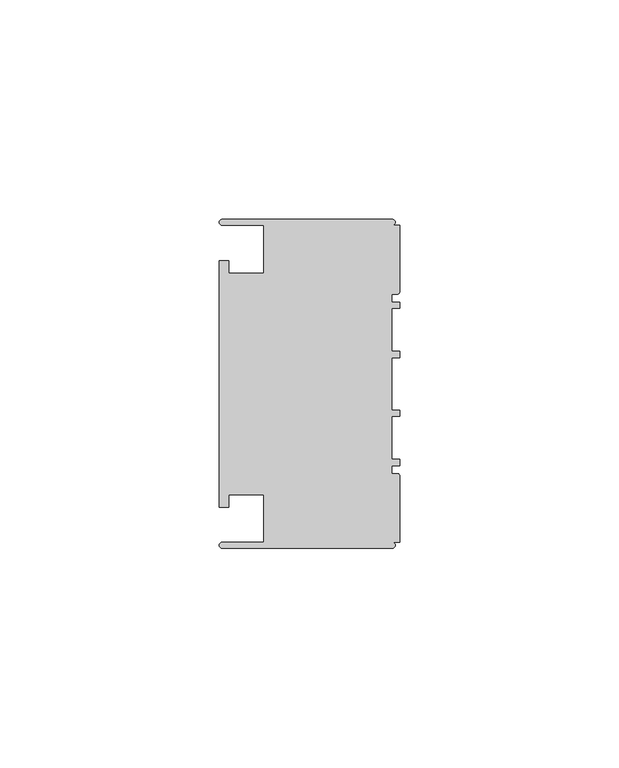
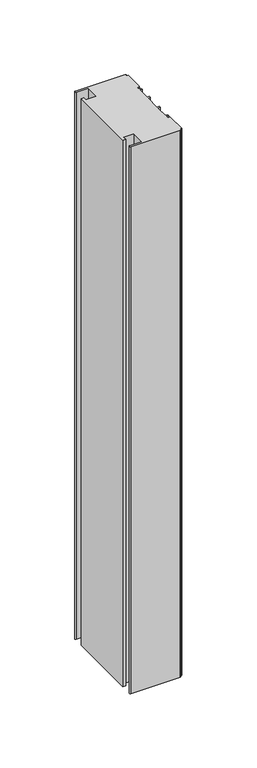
"""IFC4 building model written with IfcOpenShell, lengths in millimetres: member geometry, Прямоугольный импост : 3-AMG-2-Профиль 40Х75 Верх П."""

from ifc_helpers import new_model, si_unit, point, frame, frame_2d, origin, place, context, project, spatial, polyline, circle_curve, trimmed, segment, composite_curve, outline, extrude, source, transform, mapped, element, save


def member_06547a7c(model_context):
    return source(origin(), model_context, "Body", "SweptSolid", [
        extrude(outline(composite_curve([segment(polyline([(-1.7, -37.5), (-40.4, -37.5)]), True, "CONTINUOUS"), segment(trimmed(circle_curve(frame_2d((-40.4, -36.8)), 0.7), [point((-40.4, -37.5))], [point((-40.4, -36.1))], False, "CARTESIAN"), True, "CONTINUOUS"), segment(polyline([(-40.4, -36.1), (-31.0, -36.1), (-31.0, -25.25), (-39.0, -25.25), (-39.0, -28.1), (-41.1, -28.1), (-41.1, 28.1), (-39.0, 28.1), (-39.0, 25.25), (-31.0, 25.25), (-31.0, 36.1), (-40.4, 36.1)]), True, "CONTINUOUS"), segment(trimmed(circle_curve(frame_2d((-40.4, 36.8)), 0.7), [point((-40.4, 36.1))], [point((-40.4, 37.5))], False, "CARTESIAN"), True, "CONTINUOUS"), segment(polyline([(-40.4, 37.5), (-1.7, 37.5)]), True, "CONTINUOUS"), segment(trimmed(circle_curve(frame_2d((-1.7, 36.8)), 0.7), [point((-1.7, 37.5))], [point((-1.7, 36.1))], False, "CARTESIAN"), True, "CONTINUOUS"), segment(polyline([(-1.7, 36.1), (0.0, 36.1), (0.0, 20.95)]), True, "CONTINUOUS"), segment(trimmed(circle_curve(frame_2d((-0.5, 20.95)), 0.5), [point((0.0, 20.95))], [point((-0.5, 20.45))], False, "CARTESIAN"), True, "CONTINUOUS"), segment(polyline([(-0.5, 20.45), (-1.8, 20.45), (-1.8, 18.65), (0.0, 18.65), (0.0, 17.25), (-1.8, 17.25), (-1.8, 7.4), (0.0, 7.4), (0.0, 6.0), (-1.8, 6.0), (-1.8, -6.0), (0.0, -6.0), (0.0, -7.4), (-1.8, -7.4), (-1.8, -17.25), (0.0, -17.25), (0.0, -18.65), (-1.8, -18.65), (-1.8, -20.45), (-0.5, -20.45)]), True, "CONTINUOUS"), segment(trimmed(circle_curve(frame_2d((-0.5, -20.95)), 0.5), [point((-0.5, -20.45))], [point((0.0, -20.95))], False, "CARTESIAN"), True, "CONTINUOUS"), segment(polyline([(0.0, -20.95), (0.0, -36.1), (-1.7, -36.1)]), True, "CONTINUOUS"), segment(trimmed(circle_curve(frame_2d((-1.7, -36.8)), 0.7), [point((-1.7, -36.1))], [point((-1.7, -37.5))], False, "CARTESIAN"), True, "CONTINUOUS")], self_intersect=False)), frame((0.0, 0.0, -450.0), z_axis=(0.0, 0.0, 1.0), x_axis=(1.0, 0.0, 0.0)), (0.0, 0.0, 1.0), 450.0),
    ])


if __name__ == "__main__":
    model = new_model("IFC4")
    model_context = context("Model", 3, world=origin())
    ifc_project = project(units=[si_unit("LENGTHUNIT", "METRE", prefix="MILLI")], contexts=[model_context])
    site = spatial("IfcSite", under=ifc_project)
    building = spatial("IfcBuilding", under=site)
    placement = place(None, origin())
    member_shape = member_06547a7c(model_context)
    element("IfcMember", 1, ObjectType="Прямоугольный импост : 3-AMG-2-Профиль 40Х75 Верх П", at=placement, inside=building, context=model_context, shape_type="MappedRepresentation", body=[
        mapped(member_shape, transform((0.0, 0.0, 0.0), x_axis=(1.0, 0.0, 0.0), y_axis=(0.0, 1.0, 0.0), z_axis=(0.0, 0.0, 1.0))),
    ])
    save(model, "model.ifc")
